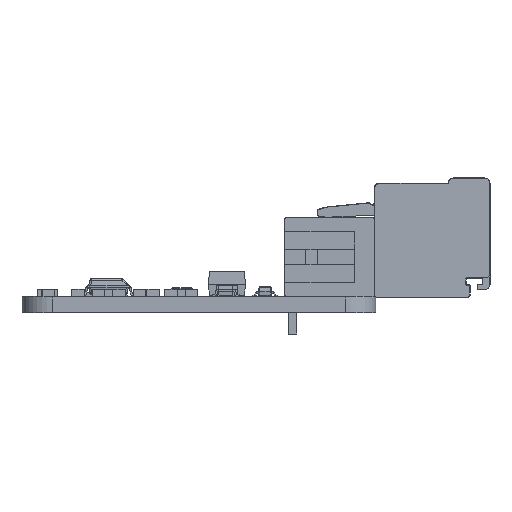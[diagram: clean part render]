
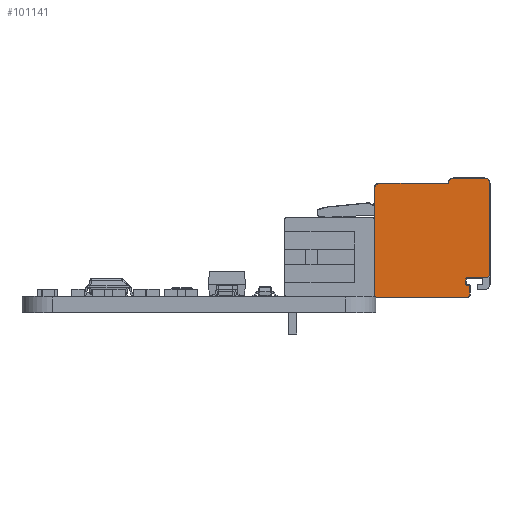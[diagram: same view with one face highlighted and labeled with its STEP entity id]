
A CAD part, left-side view. The second image highlights one B-rep face of the part: STEP entity #101141.
In plain terms, the highlighted planar face has unit normal (-1, 0, 0) as drawn and (0, 0, -1) by its records, which use the part's own axes.
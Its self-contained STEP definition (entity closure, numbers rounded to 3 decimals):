
#3336=CIRCLE('',#107602,0.5);
#3338=CIRCLE('',#107606,0.1);
#3340=CIRCLE('',#107610,0.1);
#3342=CIRCLE('',#107614,0.1);
#3344=CIRCLE('',#107618,0.2);
#3346=CIRCLE('',#107621,0.5);
#3347=CIRCLE('',#107622,0.5);
#3348=CIRCLE('',#107623,0.5);
#7035=FACE_OUTER_BOUND('',#12730,.T.);
#12730=EDGE_LOOP('',(#68904,#68905,#68906,#68907,#68908,#68909,#68910,#68911,
#68912,#68913,#68914,#68915,#68916,#68917,#68918,#68919,#68920));
#19945=LINE('',#144661,#31830);
#20075=LINE('',#144993,#31960);
#20087=LINE('',#145042,#31972);
#20091=LINE('',#145054,#31976);
#20095=LINE('',#145066,#31980);
#20099=LINE('',#145078,#31984);
#20103=LINE('',#145090,#31988);
#20104=LINE('',#145094,#31989);
#20105=LINE('',#145097,#31990);
#31830=VECTOR('',#116396,10.);
#31960=VECTOR('',#116714,10.);
#31972=VECTOR('',#116770,10.);
#31976=VECTOR('',#116782,10.);
#31980=VECTOR('',#116794,10.);
#31984=VECTOR('',#116806,10.);
#31988=VECTOR('',#116818,10.);
#31989=VECTOR('',#116821,10.);
#31990=VECTOR('',#116826,10.);
#43660=VERTEX_POINT('',#144658);
#43661=VERTEX_POINT('',#144660);
#43768=VERTEX_POINT('',#144990);
#43769=VERTEX_POINT('',#144992);
#43780=VERTEX_POINT('',#145032);
#43781=VERTEX_POINT('',#145033);
#43784=VERTEX_POINT('',#145041);
#43786=VERTEX_POINT('',#145047);
#43788=VERTEX_POINT('',#145053);
#43790=VERTEX_POINT('',#145059);
#43792=VERTEX_POINT('',#145065);
#43794=VERTEX_POINT('',#145071);
#43796=VERTEX_POINT('',#145077);
#43798=VERTEX_POINT('',#145083);
#43800=VERTEX_POINT('',#145089);
#43801=VERTEX_POINT('',#145091);
#43802=VERTEX_POINT('',#145093);
#53481=EDGE_CURVE('',#43660,#43661,#19945,.T.);
#53645=EDGE_CURVE('',#43768,#43769,#20075,.T.);
#53664=EDGE_CURVE('',#43780,#43781,#3336,.T.);
#53668=EDGE_CURVE('',#43781,#43784,#20087,.T.);
#53671=EDGE_CURVE('',#43784,#43786,#3338,.T.);
#53674=EDGE_CURVE('',#43786,#43788,#20091,.T.);
#53677=EDGE_CURVE('',#43788,#43790,#3340,.T.);
#53680=EDGE_CURVE('',#43790,#43792,#20095,.T.);
#53683=EDGE_CURVE('',#43792,#43794,#3342,.T.);
#53686=EDGE_CURVE('',#43794,#43796,#20099,.T.);
#53689=EDGE_CURVE('',#43796,#43798,#3344,.T.);
#53692=EDGE_CURVE('',#43800,#43780,#20103,.T.);
#53693=EDGE_CURVE('',#43801,#43800,#3346,.T.);
#53694=EDGE_CURVE('',#43802,#43801,#20104,.T.);
#53695=EDGE_CURVE('',#43661,#43802,#3347,.T.);
#53696=EDGE_CURVE('',#43769,#43660,#3348,.T.);
#53697=EDGE_CURVE('',#43798,#43768,#20105,.T.);
#68904=ORIENTED_EDGE('',*,*,#53664,.F.);
#68905=ORIENTED_EDGE('',*,*,#53692,.F.);
#68906=ORIENTED_EDGE('',*,*,#53693,.F.);
#68907=ORIENTED_EDGE('',*,*,#53694,.F.);
#68908=ORIENTED_EDGE('',*,*,#53695,.F.);
#68909=ORIENTED_EDGE('',*,*,#53481,.F.);
#68910=ORIENTED_EDGE('',*,*,#53696,.F.);
#68911=ORIENTED_EDGE('',*,*,#53645,.F.);
#68912=ORIENTED_EDGE('',*,*,#53697,.F.);
#68913=ORIENTED_EDGE('',*,*,#53689,.F.);
#68914=ORIENTED_EDGE('',*,*,#53686,.F.);
#68915=ORIENTED_EDGE('',*,*,#53683,.F.);
#68916=ORIENTED_EDGE('',*,*,#53680,.F.);
#68917=ORIENTED_EDGE('',*,*,#53677,.F.);
#68918=ORIENTED_EDGE('',*,*,#53674,.F.);
#68919=ORIENTED_EDGE('',*,*,#53671,.F.);
#68920=ORIENTED_EDGE('',*,*,#53668,.F.);
#96726=PLANE('',#107620);
#101141=ADVANCED_FACE('',(#7035),#96726,.F.);
#107602=AXIS2_PLACEMENT_3D('',#145034,#116762,#116763);
#107606=AXIS2_PLACEMENT_3D('',#145048,#116775,#116776);
#107610=AXIS2_PLACEMENT_3D('',#145060,#116787,#116788);
#107614=AXIS2_PLACEMENT_3D('',#145072,#116799,#116800);
#107618=AXIS2_PLACEMENT_3D('',#145084,#116811,#116812);
#107620=AXIS2_PLACEMENT_3D('',#145088,#116816,#116817);
#107621=AXIS2_PLACEMENT_3D('',#145092,#116819,#116820);
#107622=AXIS2_PLACEMENT_3D('',#145095,#116822,#116823);
#107623=AXIS2_PLACEMENT_3D('',#145096,#116824,#116825);
#116396=DIRECTION('',(-1.,0.,0.));
#116714=DIRECTION('',(0.,1.,0.));
#116762=DIRECTION('center_axis',(0.,0.,1.));
#116763=DIRECTION('ref_axis',(-1.,0.,0.));
#116770=DIRECTION('',(1.,0.,0.));
#116775=DIRECTION('center_axis',(0.,0.,-1.));
#116776=DIRECTION('ref_axis',(-1.,0.,0.));
#116782=DIRECTION('',(0.,-1.,0.));
#116787=DIRECTION('center_axis',(0.,0.,-1.));
#116788=DIRECTION('ref_axis',(0.,1.,0.));
#116794=DIRECTION('',(-1.,0.,0.));
#116799=DIRECTION('center_axis',(0.,0.,1.));
#116800=DIRECTION('ref_axis',(0.,1.,0.));
#116806=DIRECTION('',(0.,-1.,0.));
#116811=DIRECTION('center_axis',(0.,0.,1.));
#116812=DIRECTION('ref_axis',(-1.,0.,0.));
#116816=DIRECTION('center_axis',(0.,0.,1.));
#116817=DIRECTION('ref_axis',(1.,0.,0.));
#116818=DIRECTION('',(0.,-1.,0.));
#116819=DIRECTION('center_axis',(0.,0.,1.));
#116820=DIRECTION('ref_axis',(0.,1.,0.));
#116821=DIRECTION('',(-1.,0.,0.));
#116822=DIRECTION('center_axis',(0.,0.,1.));
#116823=DIRECTION('ref_axis',(1.,0.,0.));
#116824=DIRECTION('center_axis',(0.,0.,1.));
#116825=DIRECTION('ref_axis',(1.,0.,0.));
#116826=DIRECTION('',(1.,0.,0.));
#144658=CARTESIAN_POINT('',(10.9,11.25,-1.5));
#144660=CARTESIAN_POINT('',(4.1,11.25,-1.5));
#144661=CARTESIAN_POINT('',(10.9,11.25,-1.5));
#144990=CARTESIAN_POINT('',(11.4,0.,-1.5));
#144992=CARTESIAN_POINT('',(11.4,10.75,-1.5));
#144993=CARTESIAN_POINT('',(11.4,0.,-1.5));
#145032=CARTESIAN_POINT('',(0.,2.4,-1.5));
#145033=CARTESIAN_POINT('',(0.5,1.9,-1.5));
#145034=CARTESIAN_POINT('Origin',(0.5,2.4,-1.5));
#145041=CARTESIAN_POINT('',(2.3,1.9,-1.5));
#145042=CARTESIAN_POINT('',(0.5,1.9,-1.5));
#145047=CARTESIAN_POINT('',(2.4,1.8,-1.5));
#145048=CARTESIAN_POINT('Origin',(2.3,1.8,-1.5));
#145053=CARTESIAN_POINT('',(2.4,1.25,-1.5));
#145054=CARTESIAN_POINT('',(2.4,1.8,-1.5));
#145059=CARTESIAN_POINT('',(2.3,1.15,-1.5));
#145060=CARTESIAN_POINT('Origin',(2.3,1.25,-1.5));
#145065=CARTESIAN_POINT('',(2.1,1.15,-1.5));
#145066=CARTESIAN_POINT('',(2.3,1.15,-1.5));
#145071=CARTESIAN_POINT('',(2.,1.05,-1.5));
#145072=CARTESIAN_POINT('Origin',(2.1,1.05,-1.5));
#145077=CARTESIAN_POINT('',(2.,0.2,-1.5));
#145078=CARTESIAN_POINT('',(2.,1.05,-1.5));
#145083=CARTESIAN_POINT('',(2.2,0.,-1.5));
#145084=CARTESIAN_POINT('Origin',(2.2,0.2,-1.5));
#145088=CARTESIAN_POINT('Origin',(5.7,5.764,-1.5));
#145089=CARTESIAN_POINT('',(0.,11.25,-1.5));
#145090=CARTESIAN_POINT('',(0.,11.25,-1.5));
#145091=CARTESIAN_POINT('',(0.5,11.75,-1.5));
#145092=CARTESIAN_POINT('Origin',(0.5,11.25,-1.5));
#145093=CARTESIAN_POINT('',(3.6,11.75,-1.5));
#145094=CARTESIAN_POINT('',(3.6,11.75,-1.5));
#145095=CARTESIAN_POINT('Origin',(3.6,11.25,-1.5));
#145096=CARTESIAN_POINT('Origin',(10.9,10.75,-1.5));
#145097=CARTESIAN_POINT('',(2.2,0.,-1.5));
